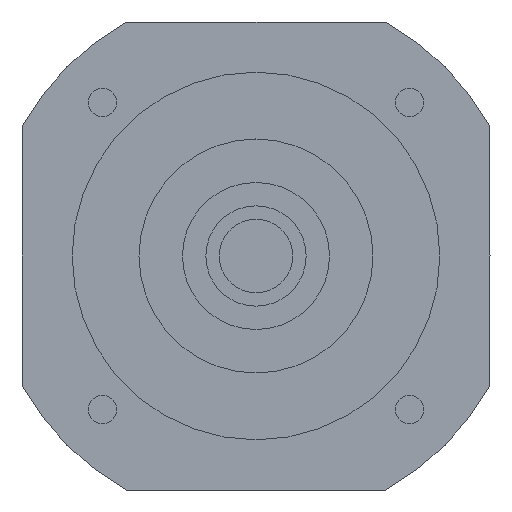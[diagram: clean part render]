
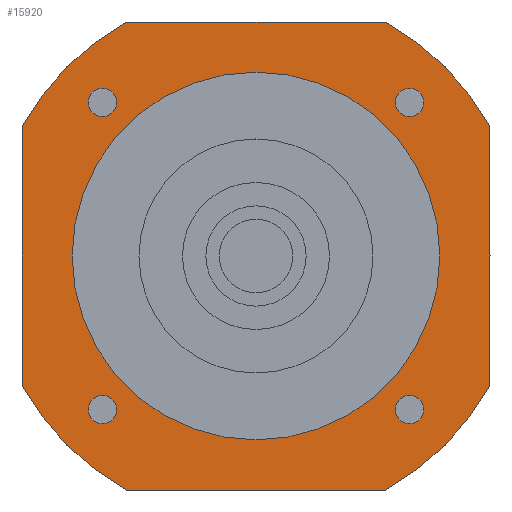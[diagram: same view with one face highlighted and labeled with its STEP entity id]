
A CAD part, left-side view. The second image highlights one B-rep face of the part: STEP entity #15920.
In plain terms, the highlighted planar face has unit normal (-1, 0, 0) as drawn and (0, 0, -1) by its records, which use the part's own axes.
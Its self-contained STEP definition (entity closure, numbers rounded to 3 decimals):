
#13110=CARTESIAN_POINT('',(-38.73,-70.,-59.7));
#13120=VERTEX_POINT('',#13110);
#13150=CARTESIAN_POINT('',(0.,0.,
-59.7));
#13160=DIRECTION('',(0.,0.,-1.));
#13170=DIRECTION('',(1.,0.,0.));
#13180=AXIS2_PLACEMENT_3D('',#13150,#13160,#13170);
#13190=CIRCLE('',#13180,80.);
#13200=CARTESIAN_POINT('',(-70.,-38.73,-59.7));
#13210=VERTEX_POINT('',#13200);
#13220=EDGE_CURVE('',#13120,#13210,#13190,.T.);
#13400=CARTESIAN_POINT('',(-70.,-70.,-59.7));
#13410=DIRECTION('',(0.,1.,0.));
#13420=VECTOR('',#13410,1000.);
#13430=LINE('',#13400,#13420);
#13440=CARTESIAN_POINT('',(-70.,38.73,-59.7));
#13450=VERTEX_POINT('',#13440);
#13460=EDGE_CURVE('',#13210,#13450,#13430,.T.);
#13670=CARTESIAN_POINT('',(70.,-38.73,-59.7));
#13680=VERTEX_POINT('',#13670);
#13710=CARTESIAN_POINT('',(0.,0.,
-59.7));
#13720=DIRECTION('',(0.,0.,-1.));
#13730=DIRECTION('',(1.,0.,0.));
#13740=AXIS2_PLACEMENT_3D('',#13710,#13720,#13730);
#13750=CIRCLE('',#13740,80.);
#13760=CARTESIAN_POINT('',(38.73,-70.,-59.7));
#13770=VERTEX_POINT('',#13760);
#13780=EDGE_CURVE('',#13680,#13770,#13750,.T.);
#13960=CARTESIAN_POINT('',(70.,-70.,-59.7));
#13970=DIRECTION('',(-1.,0.,0.));
#13980=VECTOR('',#13970,1000.);
#13990=LINE('',#13960,#13980);
#14000=EDGE_CURVE('',#13770,#13120,#13990,.T.);
#14160=CARTESIAN_POINT('',(-38.73,70.,-59.7));
#14170=VERTEX_POINT('',#14160);
#14200=CARTESIAN_POINT('',(-70.,70.,-59.7));
#14210=DIRECTION('',(1.,0.,0.));
#14220=VECTOR('',#14210,1000.);
#14230=LINE('',#14200,#14220);
#14240=CARTESIAN_POINT('',(38.73,70.,-59.7));
#14250=VERTEX_POINT('',#14240);
#14260=EDGE_CURVE('',#14170,#14250,#14230,.T.);
#14460=CARTESIAN_POINT('',(0.,0.,
-59.7));
#14470=DIRECTION('',(0.,0.,-1.));
#14480=DIRECTION('',(1.,0.,0.));
#14490=AXIS2_PLACEMENT_3D('',#14460,#14470,#14480);
#14500=CIRCLE('',#14490,80.);
#14510=EDGE_CURVE('',#13450,#14170,#14500,.T.);
#14620=CARTESIAN_POINT('',(0.,0.,
-59.7));
#14630=DIRECTION('',(0.,0.,-1.));
#14640=DIRECTION('',(1.,0.,0.));
#14650=AXIS2_PLACEMENT_3D('',#14620,#14630,#14640);
#14660=CIRCLE('',#14650,80.);
#14670=CARTESIAN_POINT('',(70.,38.73,-59.7));
#14680=VERTEX_POINT('',#14670);
#14690=EDGE_CURVE('',#14250,#14680,#14660,.T.);
#14870=CARTESIAN_POINT('',(70.,70.,-59.7));
#14880=DIRECTION('',(0.,-1.,0.));
#14890=VECTOR('',#14880,1000.);
#14900=LINE('',#14870,#14890);
#14910=EDGE_CURVE('',#14680,#13680,#14900,.T.);
#14980=CARTESIAN_POINT('',(70.,70.,-59.7));
#14990=DIRECTION('',(0.,0.,-1.));
#15000=DIRECTION('',(1.,0.,0.));
#15010=AXIS2_PLACEMENT_3D('',#14980,#14990,#15000);
#15020=PLANE('',#15010);
#15030=CARTESIAN_POINT('',(-45.962,-45.962,-59.7));
#15040=DIRECTION('',(0.,0.,-1.));
#15050=DIRECTION('',(0.,-1.,0.));
#15060=AXIS2_PLACEMENT_3D('',#15030,#15040,#15050);
#15070=CIRCLE('',#15060,4.25);
#15080=CARTESIAN_POINT('',(-45.962,-50.212,-59.7));
#15090=VERTEX_POINT('',#15080);
#15100=CARTESIAN_POINT('',(-45.962,-41.712,-59.7));
#15110=VERTEX_POINT('',#15100);
#15120=EDGE_CURVE('',#15090,#15110,#15070,.T.);
#15130=ORIENTED_EDGE('',*,*,#15120,.F.);
#15140=EDGE_CURVE('',#15110,#15090,#15070,.T.);
#15150=ORIENTED_EDGE('',*,*,#15140,.F.);
#15160=EDGE_LOOP('',(#15150,#15130));
#15170=FACE_BOUND('',#15160,.T.);
#15180=CARTESIAN_POINT('',(-45.962,45.962,-59.7));
#15190=DIRECTION('',(0.,0.,-1.));
#15200=DIRECTION('',(-1.,0.,0.));
#15210=AXIS2_PLACEMENT_3D('',#15180,#15190,#15200);
#15220=CIRCLE('',#15210,4.25);
#15230=CARTESIAN_POINT('',(-50.212,45.962,-59.7));
#15240=VERTEX_POINT('',#15230);
#15250=CARTESIAN_POINT('',(-41.712,45.962,-59.7));
#15260=VERTEX_POINT('',#15250);
#15270=EDGE_CURVE('',#15240,#15260,#15220,.T.);
#15280=ORIENTED_EDGE('',*,*,#15270,.F.);
#15290=EDGE_CURVE('',#15260,#15240,#15220,.T.);
#15300=ORIENTED_EDGE('',*,*,#15290,.F.);
#15310=EDGE_LOOP('',(#15300,#15280));
#15320=FACE_BOUND('',#15310,.T.);
#15330=CARTESIAN_POINT('',(45.962,45.962,-59.7));
#15340=DIRECTION('',(0.,0.,-1.));
#15350=DIRECTION('',(0.,1.,0.));
#15360=AXIS2_PLACEMENT_3D('',#15330,#15340,#15350);
#15370=CIRCLE('',#15360,4.25);
#15380=CARTESIAN_POINT('',(45.962,50.212,-59.7));
#15390=VERTEX_POINT('',#15380);
#15400=CARTESIAN_POINT('',(45.962,41.712,-59.7));
#15410=VERTEX_POINT('',#15400);
#15420=EDGE_CURVE('',#15390,#15410,#15370,.T.);
#15430=ORIENTED_EDGE('',*,*,#15420,.F.);
#15440=EDGE_CURVE('',#15410,#15390,#15370,.T.);
#15450=ORIENTED_EDGE('',*,*,#15440,.F.);
#15460=EDGE_LOOP('',(#15450,#15430));
#15470=FACE_BOUND('',#15460,.T.);
#15480=CARTESIAN_POINT('',(0.,0.,
-59.7));
#15490=DIRECTION('',(0.,0.,1.));
#15500=DIRECTION('',(0.,1.,0.));
#15510=AXIS2_PLACEMENT_3D('',#15480,#15490,#15500);
#15520=CIRCLE('',#15510,55.);
#15530=CARTESIAN_POINT('',(-55.,0.,-59.7));
#15540=VERTEX_POINT('',#15530);
#15550=CARTESIAN_POINT('',(55.,0.,-59.7));
#15560=VERTEX_POINT('',#15550);
#15570=EDGE_CURVE('',#15540,#15560,#15520,.T.);
#15580=ORIENTED_EDGE('',*,*,#15570,.T.);
#15590=CARTESIAN_POINT('',(0.,55.,-59.7));
#15600=VERTEX_POINT('',#15590);
#15610=EDGE_CURVE('',#15600,#15540,#15520,.T.);
#15620=ORIENTED_EDGE('',*,*,#15610,.T.);
#15630=EDGE_CURVE('',#15560,#15600,#15520,.T.);
#15640=ORIENTED_EDGE('',*,*,#15630,.T.);
#15650=EDGE_LOOP('',(#15640,#15620,#15580));
#15660=FACE_BOUND('',#15650,.T.);
#15670=ORIENTED_EDGE('',*,*,#14260,.T.);
#15680=ORIENTED_EDGE('',*,*,#14510,.T.);
#15690=ORIENTED_EDGE('',*,*,#13460,.T.);
#15700=ORIENTED_EDGE('',*,*,#13220,.T.);
#15710=ORIENTED_EDGE('',*,*,#14000,.T.);
#15720=ORIENTED_EDGE('',*,*,#13780,.T.);
#15730=ORIENTED_EDGE('',*,*,#14910,.T.);
#15740=ORIENTED_EDGE('',*,*,#14690,.T.);
#15750=EDGE_LOOP('',(#15740,#15730,#15720,#15710,#15700,#15690,#15680,
#15670));
#15760=FACE_OUTER_BOUND('',#15750,.T.);
#15770=CARTESIAN_POINT('',(45.962,-45.962,-59.7));
#15780=DIRECTION('',(0.,0.,-1.));
#15790=DIRECTION('',(1.,0.,0.));
#15800=AXIS2_PLACEMENT_3D('',#15770,#15780,#15790);
#15810=CIRCLE('',#15800,4.25);
#15820=CARTESIAN_POINT('',(50.212,-45.962,-59.7));
#15830=VERTEX_POINT('',#15820);
#15840=CARTESIAN_POINT('',(41.712,-45.962,-59.7));
#15850=VERTEX_POINT('',#15840);
#15860=EDGE_CURVE('',#15830,#15850,#15810,.T.);
#15870=ORIENTED_EDGE('',*,*,#15860,.F.);
#15880=EDGE_CURVE('',#15850,#15830,#15810,.T.);
#15890=ORIENTED_EDGE('',*,*,#15880,.F.);
#15900=EDGE_LOOP('',(#15890,#15870));
#15910=FACE_BOUND('',#15900,.T.);
#15920=ADVANCED_FACE('',(#15170,#15320,#15470,#15660,#15760,#15910),
#15020,.T.);
